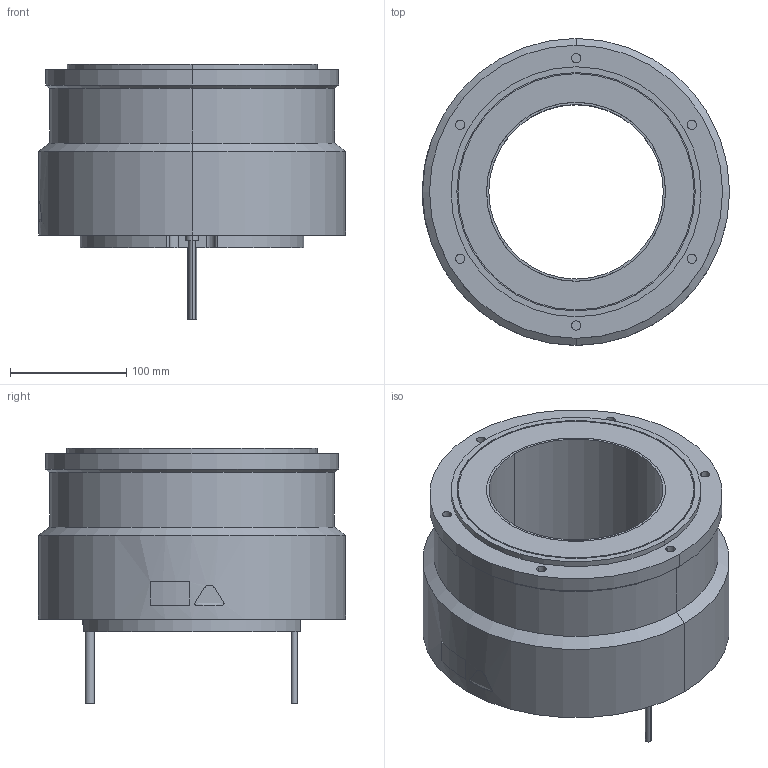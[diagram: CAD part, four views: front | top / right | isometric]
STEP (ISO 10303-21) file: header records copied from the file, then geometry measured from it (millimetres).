
FILE_DESCRIPTION (( 'STEP AP203' ), '1' );
FILE_NAME ('sgm7d_28i_c5_.STEP', '2016-02-22T09:40:24', ( '' ), ( '' ), 'SwSTEP 2.0', 'SolidWorks 2010', '' );
FILE_SCHEMA (( 'CONFIG_CONTROL_DESIGN' ));
Length unit declared in the file: millimetre
Products named in the file (1): sgm7d_28i_c5_
Bounding box: 264.08 x 264 x 220 mm (x, y, z)
Volume: 4790703.5 mm3; surface area: 289857.3 mm2
Topology: 1 solids, 1 shells, 171 faces, 400 edges, 263 vertices
Faces by surface type: cylinder 103, plane 59, bspline 5, cone 4
Entity records: 5246 total; most frequent: CARTESIAN_POINT 1074, DIRECTION 933, ORIENTED_EDGE 800, EDGE_CURVE 400, AXIS2_PLACEMENT_3D 382, VERTEX_POINT 263, CIRCLE 215, EDGE_LOOP 205
